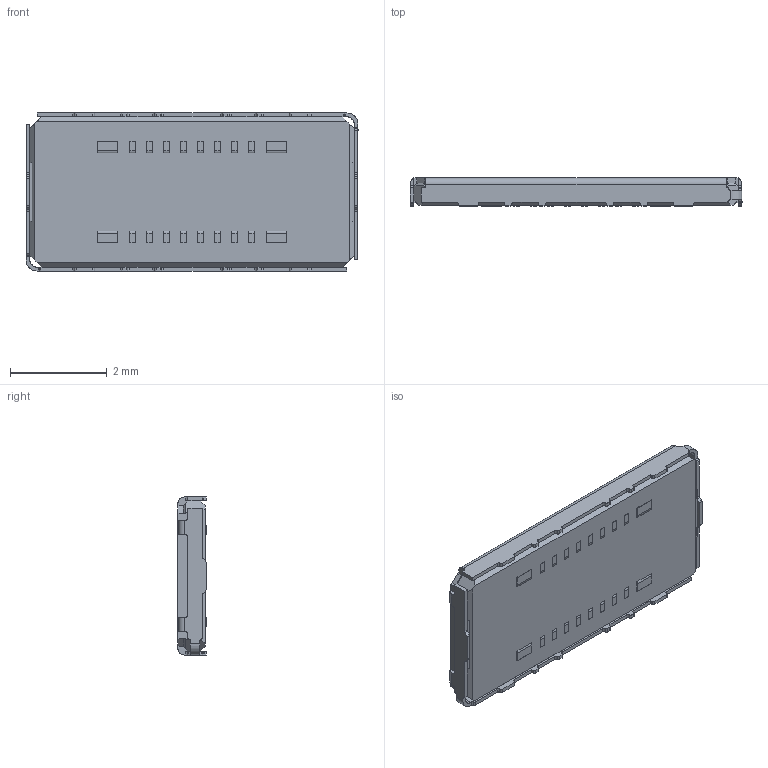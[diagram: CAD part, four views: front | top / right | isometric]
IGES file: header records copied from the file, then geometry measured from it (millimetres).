
Start section: SolidWorks IGES file using analytic representation for surfaces
Global section: file name: C:\3dwork\Watanabe\20240611_NOVASTACK 35-HDP WEB3D\20698-016E-01C NOVASTACK 35-HDP RECEPTACLE ASSY IGES R1 ALL.IGS; native system: SolidWorks 2023; preprocessor: SolidWorks 2023; author: E1480; date: 240618.105832; units: millimetre
Bounding box: 6.85 x 0.58 x 3.26 mm (x, y, z)
Surface area: 66.4 mm2 (no closed solid volume)
Topology: 0 solids, 0 shells, 380 faces, 2314 edges, 2314 vertices
Faces by surface type: bspline 250, revolution 130
